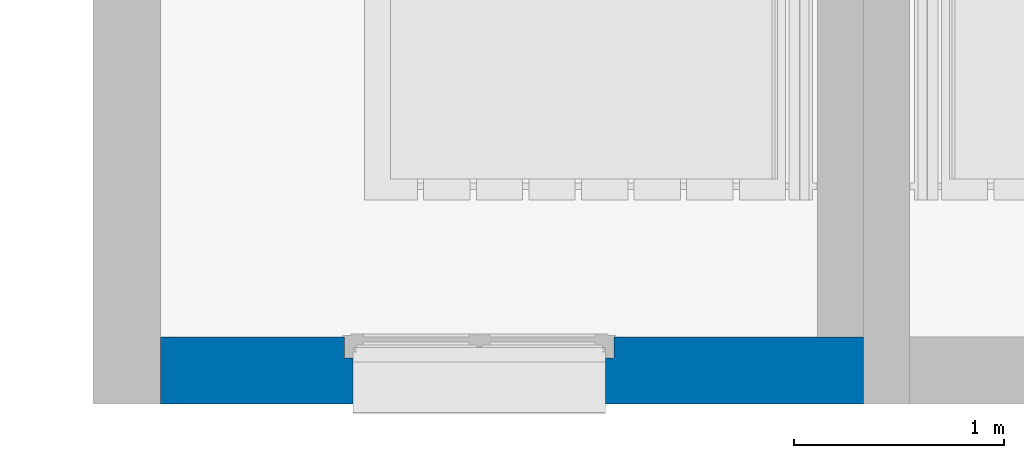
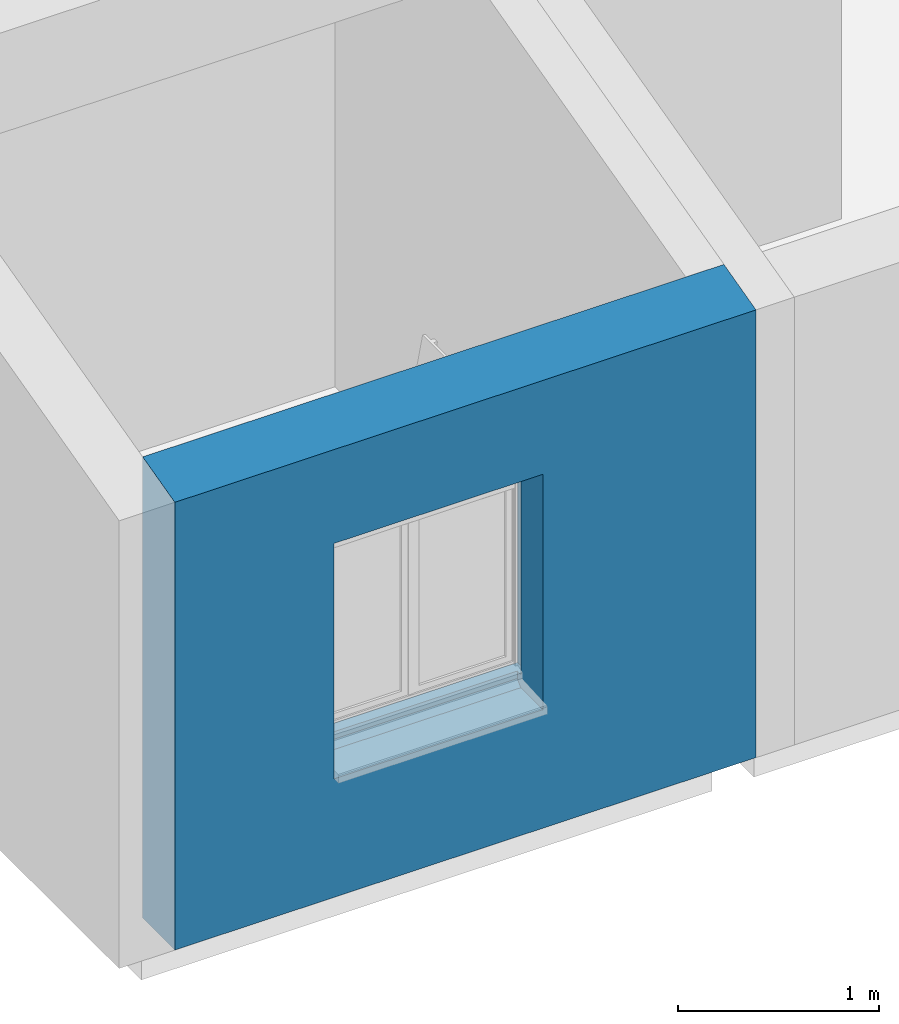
# One storey, part 9 of 50: 1 wall, 1 opening.
"""IFC2X3 building model written with IfcOpenShell, lengths in metres."""

from ifc_helpers import new_model, entity, si_unit, converted_unit, derived_unit, direction, frame, frame_2d, origin, place, context, subcontext, project, spatial, polyline, rectangle, extrude, clip, bounded_halfspace, faceted_brep, material, layer, layer_set, layer_usage, type_object, element, save


model = new_model("IFC2X3")

# Units and contexts
model_context = context("Model", 3, precision=1e-05, world=origin(), true_north=direction((6.12303176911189e-17, 1.0)))
context_of_model = context(None, 3, precision=1e-05, world=origin(), true_north=direction((6.12303176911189e-17, 1.0)))
body_context = subcontext(model_context, "Body", "Model", "MODEL_VIEW")
ifc_project = project(units=[si_unit("LENGTHUNIT", "METRE"), si_unit("AREAUNIT", "SQUARE_METRE"), si_unit("VOLUMEUNIT", "CUBIC_METRE"), converted_unit("PLANEANGLEUNIT", "DEGREE", entity("IfcRatioMeasure", 0.0174532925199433), si_unit("PLANEANGLEUNIT", "RADIAN"), dimensions=[0, 0, 0, 0, 0, 0, 0]), si_unit("MASSUNIT", "GRAM", prefix="KILO"), si_unit("TIMEUNIT", "SECOND"), si_unit("FREQUENCYUNIT", "HERTZ"), si_unit("THERMODYNAMICTEMPERATUREUNIT", "DEGREE_CELSIUS"), derived_unit("THERMALTRANSMITTANCEUNIT", [(si_unit("MASSUNIT", "GRAM", prefix="KILO"), 1), (si_unit("THERMODYNAMICTEMPERATUREUNIT", "KELVIN"), -1), (si_unit("TIMEUNIT", "SECOND"), -3)]), derived_unit("VOLUMETRICFLOWRATEUNIT", [(si_unit("LENGTHUNIT", "METRE"), 3), (si_unit("TIMEUNIT", "SECOND"), -1)]), si_unit("ELECTRICCURRENTUNIT", "AMPERE"), si_unit("ELECTRICVOLTAGEUNIT", "VOLT"), si_unit("POWERUNIT", "WATT"), si_unit("FORCEUNIT", "NEWTON", prefix="KILO"), si_unit("ILLUMINANCEUNIT", "LUX"), si_unit("LUMINOUSFLUXUNIT", "LUMEN"), si_unit("LUMINOUSINTENSITYUNIT", "CANDELA"), si_unit("PRESSUREUNIT", "PASCAL")], contexts=[model_context, context_of_model])

# Site, building, storey
site_placement = place(None, origin())
site = spatial("IfcSite", under=ifc_project, at=site_placement, Name="Surface", CompositionType="ELEMENT")
building_placement = place(site_placement, origin())
building = spatial("IfcBuilding", under=site, at=building_placement, CompositionType="ELEMENT")
storey_placement = place(building_placement, frame((0.0, 0.0, 2.82)))
storey = spatial("IfcBuildingStorey", under=building, at=storey_placement, Name="ETAGE", CompositionType="ELEMENT", Elevation=2.82)

# Wall, opening
ifc_material_1 = material(Name="Enduit  gris")
ifc_layer_1 = layer(ifc_material_1, 0.02)
ifc_material_2 = material(Name="Parpaing")
ifc_layer_2 = layer(ifc_material_2, 0.2)
ifc_material_3 = material(Name="Isolant")
ifc_layer_3 = layer(ifc_material_3, 0.1)
ifc_layer_set = layer_set([ifc_layer_1, ifc_layer_2, ifc_layer_3], Name="Mur de base:Ext. Parpaing 20 + Isolant 10 enduit gris")
ifc_layer_usage = layer_usage(ifc_layer_set, "AXIS2", "POSITIVE", -0.16)
wall_type = type_object("IfcWallType", Name="Mur de base:Ext. Parpaing 20 + Isolant 10 enduit gris", PredefinedType="STANDARD", material=ifc_layer_set)
wall_placement = place(storey_placement, frame((65.4946263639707, 77.0477566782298, 0.0)))
wall = element("IfcWallStandardCase", 1, at=wall_placement, inside=storey, type_object=wall_type, material=ifc_layer_usage, Name="Mur de base:Ext. Parpaing 20 + Isolant 10 enduit gris", ObjectType="Mur de base:Ext. Parpaing 20 + Isolant 10 enduit gris", context=body_context, shape_type="Clipping", body=[
    clip(extrude(rectangle(XDim=3.33961659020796, YDim=0.319999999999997, at=frame_2d((1.66980829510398, 1.99840144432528e-15), x_axis=(-1.0, 0.0))), origin(), (0.0, 0.0, 1.0), 2.8022236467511), bounded_halfspace(frame((0.0, -0.159999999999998, 2.72), z_axis=(0.0, -0.248864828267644, 0.968538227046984), x_axis=(1.0, 0.0, 0.0)), False, frame((0.0, -0.159999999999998, 2.72)), polyline([(0.0, 0.0), (3.33961659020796, 0.0), (3.33961659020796, 0.320000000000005), (3.12038340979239, 0.320000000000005), (0.0, 0.319999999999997), (0.0, 0.0)]))),
])
opening_placement = place(wall_placement, frame((0.864999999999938, -0.5, 0.719999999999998)))
element("IfcOpeningElement", 2, at=opening_placement, cuts=wall, Name="Mur de base:Ext. Parpaing 20 + Isolant 10 enduit gris", ObjectType="Opening", context=body_context, shape_type="Brep", body=[
    faceted_brep([(1.24999999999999, 1.0, 1.43), (1.24999999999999, 1.0, 0.0800000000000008), (0.0499999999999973, 1.0, 0.0800000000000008), (0.0499999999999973, 1.0, 1.43), (1.25, 0.0, 1.43), (0.050000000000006, 0.0, 1.43), (0.050000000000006, 0.0, 0.0800000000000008), (1.25, 0.0, 0.0800000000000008), (0.0499999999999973, 0.673000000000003, 1.43), (1.25, 0.673000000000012, 1.43), (0.0499999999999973, 0.673000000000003, 0.0800000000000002), (1.25, 0.673000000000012, 0.0800000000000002), (1.29, 0.673000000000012, 0.0800000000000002), (1.29, 0.560000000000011, 0.0800000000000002), (1.25, 0.560000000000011, 0.0800000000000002), (1.25, 0.59499999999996, 0.0800000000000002), (0.0499999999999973, 0.594999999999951, 0.0800000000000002), (0.0499999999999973, 0.560000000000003, 0.0800000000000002), (0.0100000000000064, 0.560000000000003, 0.0800000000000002), (0.0100000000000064, 0.673000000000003, 0.0800000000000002), (0.00999999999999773, 0.673000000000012, 1.47), (1.28999999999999, 0.67300000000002, 1.47), (0.00999999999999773, 0.560000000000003, 1.47), (0.0499999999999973, 0.560000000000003, 1.43), (1.25, 0.560000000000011, 1.43), (1.28999999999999, 0.560000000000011, 1.47), (1.3, 0.560000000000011, 1.47), (1.3, 0.560000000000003, 1.65), (0.0, 0.560000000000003, 1.65), (0.0, 0.560000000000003, 1.47), (0.0, 0.693000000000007, 1.65), (0.0, 0.693000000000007, 1.47), (1.3, 0.693000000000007, 1.65), (1.3, 0.693000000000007, 1.47), (0.0499999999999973, 0.560000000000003, 0.0), (0.0499999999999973, 0.594999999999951, 0.0349999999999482), (1.24999999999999, 0.59499999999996, 0.0349999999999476), (1.25, 0.560000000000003, 0.0), (0.050000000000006, 0.294999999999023, 0.0800000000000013), (0.050000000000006, 0.294999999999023, 0.0), (1.24999999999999, 0.294999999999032, 0.0), (1.25000000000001, 0.294999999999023, 0.0800000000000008)], [[[0, 1, 2, 3]], [[4, 5, 6, 7]], [[0, 3, 8, 9]], [[3, 2, 10, 8]], [[2, 1, 11, 12, 13, 14, 15, 16, 17, 18, 19, 10]], [[1, 0, 9, 11]], [[10, 19, 20, 21, 12, 11, 9, 8]], [[19, 18, 22, 20]], [[18, 17, 23, 24, 14, 13, 25, 26, 27, 28, 29, 22]], [[12, 21, 25, 13]], [[30, 31, 29, 28]], [[32, 27, 26, 33]], [[30, 28, 27, 32]], [[29, 31, 33, 26, 25, 21, 20, 22]], [[31, 30, 32, 33]], [[34, 35, 36, 37]], [[35, 16, 15, 36]], [[38, 39, 40, 41]], [[39, 34, 37, 40]], [[4, 7, 41, 40, 37, 36, 15, 14, 24]], [[7, 6, 38, 41]], [[6, 5, 23, 17, 16, 35, 34, 39, 38]], [[5, 4, 24, 23]]]),
])

save(model, "model.ifc")
